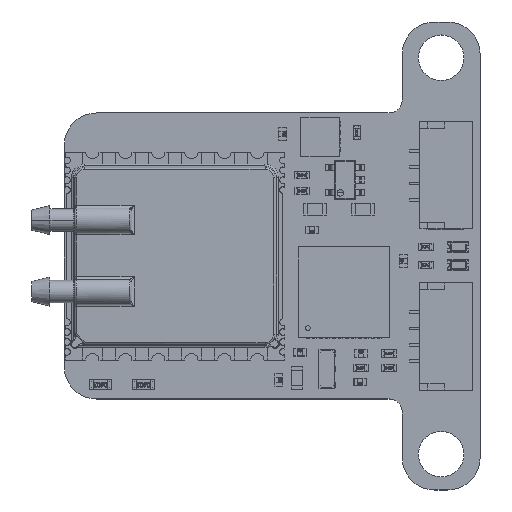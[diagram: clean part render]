
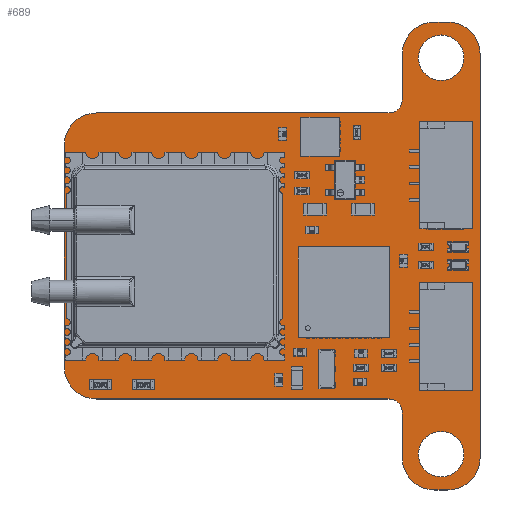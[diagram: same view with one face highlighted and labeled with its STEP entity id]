
A CAD part, top view. The second image highlights one B-rep face of the part: STEP entity #689.
In plain terms, the highlighted planar face has unit normal (0, 0, 1).
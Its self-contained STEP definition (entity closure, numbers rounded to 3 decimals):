
#24 = VERTEX_POINT('',#25);
#25 = CARTESIAN_POINT('',(-14.,-8.5,0.));
#31 = EDGE_CURVE('',#24,#32,#34,.T.);
#32 = VERTEX_POINT('',#33);
#33 = CARTESIAN_POINT('',(-11.5,-11.,0.));
#34 = CIRCLE('',#35,2.499);
#35 = AXIS2_PLACEMENT_3D('',#36,#37,#38);
#36 = CARTESIAN_POINT('',(-11.501,-8.501,0.));
#37 = DIRECTION('',(0.,0.,1.));
#38 = DIRECTION('',(-1.,0.,0.));
#64 = EDGE_CURVE('',#32,#65,#67,.T.);
#65 = VERTEX_POINT('',#66);
#66 = CARTESIAN_POINT('',(10.9,-11.,0.));
#67 = LINE('',#68,#69);
#68 = CARTESIAN_POINT('',(-11.5,-11.,0.));
#69 = VECTOR('',#70,1.);
#70 = DIRECTION('',(1.,0.,0.));
#95 = EDGE_CURVE('',#65,#96,#98,.T.);
#96 = VERTEX_POINT('',#97);
#97 = CARTESIAN_POINT('',(11.,-11.,0.));
#98 = LINE('',#99,#100);
#99 = CARTESIAN_POINT('',(10.9,-11.,0.));
#100 = VECTOR('',#101,1.);
#101 = DIRECTION('',(1.,0.,0.));
#126 = EDGE_CURVE('',#96,#127,#129,.T.);
#127 = VERTEX_POINT('',#128);
#128 = CARTESIAN_POINT('',(12.,-12.,0.));
#129 = CIRCLE('',#130,1.);
#130 = AXIS2_PLACEMENT_3D('',#131,#132,#133);
#131 = CARTESIAN_POINT('',(11.,-12.,0.));
#132 = DIRECTION('',(0.,0.,-1.));
#133 = DIRECTION('',(0.,1.,0.));
#159 = EDGE_CURVE('',#127,#160,#162,.T.);
#160 = VERTEX_POINT('',#161);
#161 = CARTESIAN_POINT('',(12.,-15.5,0.));
#162 = LINE('',#163,#164);
#163 = CARTESIAN_POINT('',(12.,-12.,0.));
#164 = VECTOR('',#165,1.);
#165 = DIRECTION('',(0.,-1.,0.));
#190 = EDGE_CURVE('',#160,#191,#193,.T.);
#191 = VERTEX_POINT('',#192);
#192 = CARTESIAN_POINT('',(14.5,-18.,0.));
#193 = CIRCLE('',#194,2.499);
#194 = AXIS2_PLACEMENT_3D('',#195,#196,#197);
#195 = CARTESIAN_POINT('',(14.499,-15.501,0.));
#196 = DIRECTION('',(0.,0.,1.));
#197 = DIRECTION('',(-1.,0.,0.));
#223 = EDGE_CURVE('',#191,#224,#226,.T.);
#224 = VERTEX_POINT('',#225);
#225 = CARTESIAN_POINT('',(15.5,-18.,0.));
#226 = LINE('',#227,#228);
#227 = CARTESIAN_POINT('',(14.5,-18.,0.));
#228 = VECTOR('',#229,1.);
#229 = DIRECTION('',(1.,0.,0.));
#254 = EDGE_CURVE('',#224,#255,#257,.T.);
#255 = VERTEX_POINT('',#256);
#256 = CARTESIAN_POINT('',(18.,-15.5,0.));
#257 = CIRCLE('',#258,2.499);
#258 = AXIS2_PLACEMENT_3D('',#259,#260,#261);
#259 = CARTESIAN_POINT('',(15.501,-15.501,0.));
#260 = DIRECTION('',(0.,0.,1.));
#261 = DIRECTION('',(0.,-1.,0.));
#287 = EDGE_CURVE('',#255,#288,#290,.T.);
#288 = VERTEX_POINT('',#289);
#289 = CARTESIAN_POINT('',(18.,15.5,0.));
#290 = LINE('',#291,#292);
#291 = CARTESIAN_POINT('',(18.,-15.5,0.));
#292 = VECTOR('',#293,1.);
#293 = DIRECTION('',(0.,1.,0.));
#318 = EDGE_CURVE('',#288,#319,#321,.T.);
#319 = VERTEX_POINT('',#320);
#320 = CARTESIAN_POINT('',(15.5,18.,0.));
#321 = CIRCLE('',#322,2.499);
#322 = AXIS2_PLACEMENT_3D('',#323,#324,#325);
#323 = CARTESIAN_POINT('',(15.501,15.501,0.));
#324 = DIRECTION('',(0.,0.,1.));
#325 = DIRECTION('',(1.,0.,0.));
#351 = EDGE_CURVE('',#319,#352,#354,.T.);
#352 = VERTEX_POINT('',#353);
#353 = CARTESIAN_POINT('',(14.5,18.,0.));
#354 = LINE('',#355,#356);
#355 = CARTESIAN_POINT('',(15.5,18.,0.));
#356 = VECTOR('',#357,1.);
#357 = DIRECTION('',(-1.,0.,0.));
#382 = EDGE_CURVE('',#352,#383,#385,.T.);
#383 = VERTEX_POINT('',#384);
#384 = CARTESIAN_POINT('',(12.,15.5,0.));
#385 = CIRCLE('',#386,2.499);
#386 = AXIS2_PLACEMENT_3D('',#387,#388,#389);
#387 = CARTESIAN_POINT('',(14.499,15.501,0.));
#388 = DIRECTION('',(0.,0.,1.));
#389 = DIRECTION('',(0.,1.,-0.));
#415 = EDGE_CURVE('',#383,#416,#418,.T.);
#416 = VERTEX_POINT('',#417);
#417 = CARTESIAN_POINT('',(12.,12.,0.));
#418 = LINE('',#419,#420);
#419 = CARTESIAN_POINT('',(12.,15.5,0.));
#420 = VECTOR('',#421,1.);
#421 = DIRECTION('',(0.,-1.,0.));
#446 = EDGE_CURVE('',#416,#447,#449,.T.);
#447 = VERTEX_POINT('',#448);
#448 = CARTESIAN_POINT('',(11.,11.,0.));
#449 = CIRCLE('',#450,1.);
#450 = AXIS2_PLACEMENT_3D('',#451,#452,#453);
#451 = CARTESIAN_POINT('',(11.,12.,0.));
#452 = DIRECTION('',(0.,0.,-1.));
#453 = DIRECTION('',(1.,0.,0.));
#479 = EDGE_CURVE('',#447,#480,#482,.T.);
#480 = VERTEX_POINT('',#481);
#481 = CARTESIAN_POINT('',(10.9,11.,0.));
#482 = LINE('',#483,#484);
#483 = CARTESIAN_POINT('',(11.,11.,0.));
#484 = VECTOR('',#485,1.);
#485 = DIRECTION('',(-1.,0.,0.));
#510 = EDGE_CURVE('',#480,#511,#513,.T.);
#511 = VERTEX_POINT('',#512);
#512 = CARTESIAN_POINT('',(-11.5,11.,0.));
#513 = LINE('',#514,#515);
#514 = CARTESIAN_POINT('',(10.9,11.,0.));
#515 = VECTOR('',#516,1.);
#516 = DIRECTION('',(-1.,0.,0.));
#541 = EDGE_CURVE('',#511,#542,#544,.T.);
#542 = VERTEX_POINT('',#543);
#543 = CARTESIAN_POINT('',(-14.,8.5,0.));
#544 = CIRCLE('',#545,2.499);
#545 = AXIS2_PLACEMENT_3D('',#546,#547,#548);
#546 = CARTESIAN_POINT('',(-11.501,8.501,0.));
#547 = DIRECTION('',(0.,0.,1.));
#548 = DIRECTION('',(0.,1.,-0.));
#574 = EDGE_CURVE('',#542,#24,#575,.T.);
#575 = LINE('',#576,#577);
#576 = CARTESIAN_POINT('',(-14.,8.5,0.));
#577 = VECTOR('',#578,1.);
#578 = DIRECTION('',(0.,-1.,0.));
#598 = VERTEX_POINT('',#599);
#599 = CARTESIAN_POINT('',(16.75,-15.25,0.));
#605 = EDGE_CURVE('',#598,#598,#606,.T.);
#606 = CIRCLE('',#607,1.75);
#607 = AXIS2_PLACEMENT_3D('',#608,#609,#610);
#608 = CARTESIAN_POINT('',(15.,-15.25,0.));
#609 = DIRECTION('',(0.,0.,1.));
#610 = DIRECTION('',(1.,0.,-0.));
#631 = VERTEX_POINT('',#632);
#632 = CARTESIAN_POINT('',(16.75,15.25,0.));
#638 = EDGE_CURVE('',#631,#631,#639,.T.);
#639 = CIRCLE('',#640,1.75);
#640 = AXIS2_PLACEMENT_3D('',#641,#642,#643);
#641 = CARTESIAN_POINT('',(15.,15.25,0.));
#642 = DIRECTION('',(0.,0.,1.));
#643 = DIRECTION('',(1.,0.,-0.));
#689 = ADVANCED_FACE('',(#690,#710,#713),#716,.T.);
#690 = FACE_BOUND('',#691,.T.);
#691 = EDGE_LOOP('',(#692,#693,#694,#695,#696,#697,#698,#699,#700,#701,
    #702,#703,#704,#705,#706,#707,#708,#709));
#692 = ORIENTED_EDGE('',*,*,#31,.T.);
#693 = ORIENTED_EDGE('',*,*,#64,.T.);
#694 = ORIENTED_EDGE('',*,*,#95,.T.);
#695 = ORIENTED_EDGE('',*,*,#126,.T.);
#696 = ORIENTED_EDGE('',*,*,#159,.T.);
#697 = ORIENTED_EDGE('',*,*,#190,.T.);
#698 = ORIENTED_EDGE('',*,*,#223,.T.);
#699 = ORIENTED_EDGE('',*,*,#254,.T.);
#700 = ORIENTED_EDGE('',*,*,#287,.T.);
#701 = ORIENTED_EDGE('',*,*,#318,.T.);
#702 = ORIENTED_EDGE('',*,*,#351,.T.);
#703 = ORIENTED_EDGE('',*,*,#382,.T.);
#704 = ORIENTED_EDGE('',*,*,#415,.T.);
#705 = ORIENTED_EDGE('',*,*,#446,.T.);
#706 = ORIENTED_EDGE('',*,*,#479,.T.);
#707 = ORIENTED_EDGE('',*,*,#510,.T.);
#708 = ORIENTED_EDGE('',*,*,#541,.T.);
#709 = ORIENTED_EDGE('',*,*,#574,.T.);
#710 = FACE_BOUND('',#711,.T.);
#711 = EDGE_LOOP('',(#712));
#712 = ORIENTED_EDGE('',*,*,#605,.F.);
#713 = FACE_BOUND('',#714,.T.);
#714 = EDGE_LOOP('',(#715));
#715 = ORIENTED_EDGE('',*,*,#638,.F.);
#716 = PLANE('',#717);
#717 = AXIS2_PLACEMENT_3D('',#718,#719,#720);
#718 = CARTESIAN_POINT('',(4.598,0.,0.));
#719 = DIRECTION('',(0.,0.,1.));
#720 = DIRECTION('',(1.,0.,-0.));
